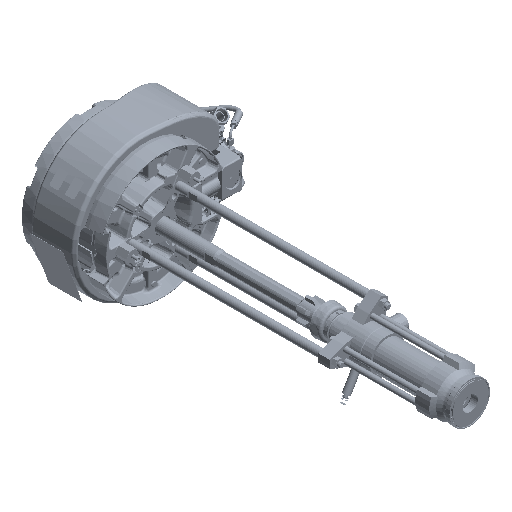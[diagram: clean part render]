
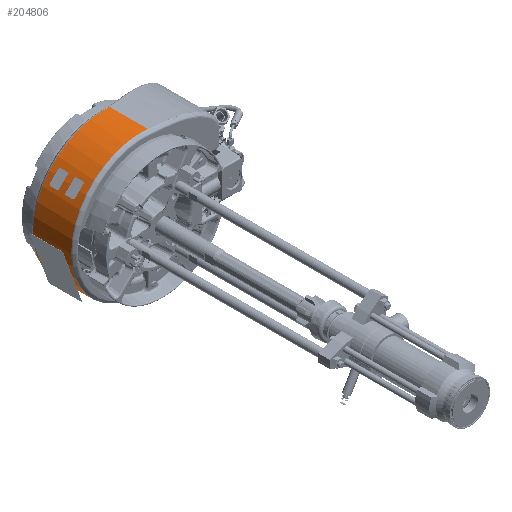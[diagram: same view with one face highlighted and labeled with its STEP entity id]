
A CAD part, isometric view. The second image highlights one B-rep face of the part: STEP entity #204806.
In plain terms, the highlighted cylindrical face has radius 227.33 mm (diameter 454.66 mm), a partial arc.
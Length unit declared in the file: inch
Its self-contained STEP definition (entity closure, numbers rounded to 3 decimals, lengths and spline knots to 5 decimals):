
#187100=CARTESIAN_POINT('',(-0.15263,-2.37355,
-8.9487));
#187101=CARTESIAN_POINT('',(-0.02283,-2.37354,
-8.95091));
#187102=CARTESIAN_POINT('',(0.22773,-2.36906,
-8.94954));
#187103=CARTESIAN_POINT('',(0.5757,-2.35174,
-8.93355));
#187104=CARTESIAN_POINT('',(0.78912,-2.3348,
-8.91573));
#187105=CARTESIAN_POINT('',(0.89118,-2.32537,
-8.90552));
#187107=CARTESIAN_POINT('',(0.,-2.37355,0.));
#187108=DIRECTION('',(0.,-1.,0.));
#187109=DIRECTION('',(-0.017,0.,1.));
#187110=AXIS2_PLACEMENT_3D('',#187107,#187108,#187109);
#187112=CARTESIAN_POINT('',(0.89118,-2.32537,
8.90552));
#187113=CARTESIAN_POINT('',(0.76261,-2.33725,
8.91839));
#187114=CARTESIAN_POINT('',(0.51353,-2.35585,
8.93769));
#187115=CARTESIAN_POINT('',(0.16531,-2.37072,
8.95057));
#187116=CARTESIAN_POINT('',(-0.04958,-2.37354,
8.95046));
#187117=CARTESIAN_POINT('',(-0.15263,-2.37355,
8.9487));
#187119=DIRECTION('',(0.,-1.,0.));
#187120=VECTOR('',#187119,4.92108);
#187121=CARTESIAN_POINT('',(0.89118,-2.32537,
8.90552));
#187122=LINE('',#187121,#187120);
#187123=CARTESIAN_POINT('',(0.,-7.24645,0.));
#187124=DIRECTION('',(0.,1.,0.));
#187125=DIRECTION('',(0.1,0.,-0.995));
#187126=AXIS2_PLACEMENT_3D('',#187123,#187124,#187125);
#187204=CARTESIAN_POINT('',(0.89118,-2.32537,
-8.90552));
#187206=DIRECTION('',(0.,-1.,0.));
#187207=VECTOR('',#187206,4.92108);
#187208=CARTESIAN_POINT('',(0.89118,-2.32537,
-8.90552));
#187209=LINE('',#187208,#187207);
#193215=VERTEX_POINT('',#187204);
#193217=VERTEX_POINT('',#187100);
#193219=CARTESIAN_POINT('',(-0.15263,-2.37355,
8.9487));
#193220=VERTEX_POINT('',#193219);
#193223=VERTEX_POINT('',#187112);
#193271=CARTESIAN_POINT('',(0.89118,-7.24645,
8.90552));
#193272=VERTEX_POINT('',#193271);
#193275=CARTESIAN_POINT('',(0.89118,-7.24645,
-8.90552));
#193276=VERTEX_POINT('',#193275);
#204789=CARTESIAN_POINT('',(0.,-7.66,0.));
#204790=DIRECTION('',(0.,1.,0.));
#204791=DIRECTION('',(0.,0.,-1.));
#204792=AXIS2_PLACEMENT_3D('',#204789,#204790,#204791);
#204793=CYLINDRICAL_SURFACE('',#204792,8.95);
#204795=ORIENTED_EDGE('',*,*,#204794,.F.);
#204797=ORIENTED_EDGE('',*,*,#204796,.F.);
#204798=ORIENTED_EDGE('',*,*,#204779,.F.);
#204799=ORIENTED_EDGE('',*,*,#204610,.T.);
#204801=ORIENTED_EDGE('',*,*,#204800,.F.);
#204803=ORIENTED_EDGE('',*,*,#204802,.F.);
#204804=EDGE_LOOP('',(#204795,#204797,#204798,#204799,#204801,#204803));
#204805=FACE_OUTER_BOUND('',#204804,.F.);
#204806=ADVANCED_FACE('',(#204805),#204793,.T.);
#187106=B_SPLINE_CURVE_WITH_KNOTS('',3,(#187100,#187101,#187102,#187103,#187104,
#187105),.UNSPECIFIED.,.F.,.F.,(4,1,1,4),(0.,0.33333,
0.66667,1.),.UNSPECIFIED.);
#187111=CIRCLE('',#187110,8.95);
#187118=B_SPLINE_CURVE_WITH_KNOTS('',3,(#187112,#187113,#187114,#187115,#187116,
#187117),.UNSPECIFIED.,.F.,.F.,(4,1,1,4),(0.,0.33333,
0.66667,1.),.UNSPECIFIED.);
#187127=CIRCLE('',#187126,8.95);
#204610=EDGE_CURVE('',#193223,#193272,#187122,.T.);
#204779=EDGE_CURVE('',#193223,#193220,#187118,.T.);
#204794=EDGE_CURVE('',#193217,#193215,#187106,.T.);
#204796=EDGE_CURVE('',#193220,#193217,#187111,.T.);
#204800=EDGE_CURVE('',#193276,#193272,#187127,.T.);
#204802=EDGE_CURVE('',#193215,#193276,#187209,.T.);
